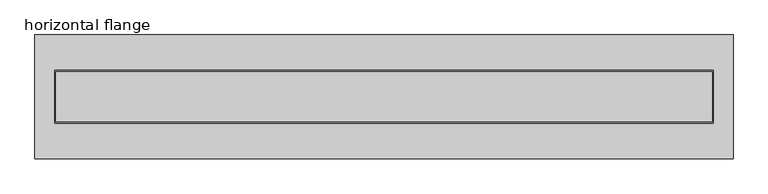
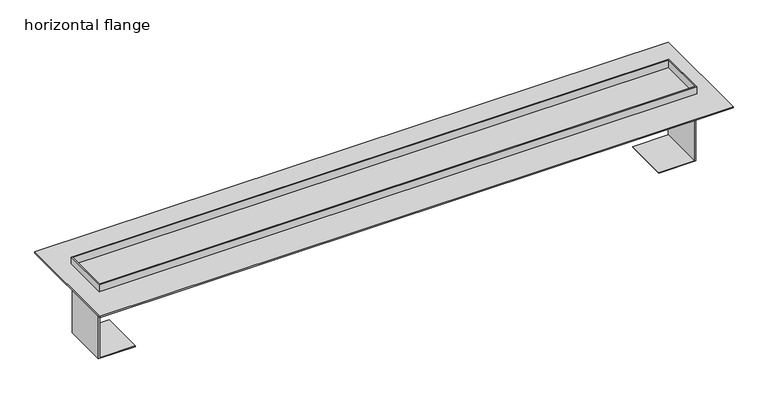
"""IFC4 building model written with IfcOpenShell, lengths in millimetres: sanitary terminal geometry, PF_UN_ShowerDrain M plus_ACO : horizontal flange."""

from ifc_helpers import new_model, si_unit, frame, origin, origin_with_axes, place, context, project, spatial, polyline, outline, extrude, faceted_brep, source, transform, mapped, element, save


def horizontal_flange_18cf1d1b(model_context):
    return source(origin(), model_context, "Body", "SolidModel", [
        extrude(outline(polyline([(530.0, 94.0), (530.0, -94.0), (-530.0, -94.0), (-530.0, 94.0), (530.0, 94.0)])), origin_with_axes(), (0.0, 0.0, 1.0), 2.0),
        extrude(outline(polyline([(-16.5, -498.0), (-16.5, -500.0), (-117.5, -500.0), (-117.5, -438.0), (-116.5, -438.0), (-116.5, -498.0), (-16.5, -498.0)])), frame((0.0, -38.0, 0.0), z_axis=(0.0, 1.0, 0.0), x_axis=(0.0, 0.0, 1.0)), (0.0, 0.0, 1.0), 76.0),
        extrude(outline(polyline([(-16.5, 498.0), (-116.5, 498.0), (-116.5, 438.0), (-117.5, 438.0), (-117.5, 500.0), (-16.5, 500.0), (-16.5, 498.0)])), frame((0.0, -38.0, 0.0), z_axis=(0.0, 1.0, 0.0), x_axis=(0.0, 0.0, 1.0)), (0.0, 0.0, 1.0), 76.0),
        faceted_brep([(500.0, 40.0, 15.0), (-500.0, 40.0, 15.0), (-500.0, -40.0, 15.0), (500.0, -40.0, 15.0), (-498.0, -38.0, 15.0), (-498.0, 38.0, 15.0), (498.0, 38.0, 15.0), (498.0, -38.0, 15.0), (500.0, 40.0, -16.5), (500.0, -40.0, -16.5), (-500.0, -40.0, -16.5), (-500.0, 40.0, -16.5), (-498.0, 38.0, -6.0), (-498.0, -38.0, -6.0), (498.0, -38.0, -6.0), (498.0, 38.0, -6.0)], [[[0, 1, 2, 3], [4, 5, 6, 7]], [[8, 9, 10, 11]], [[1, 0, 8, 11]], [[2, 1, 11, 10]], [[3, 2, 10, 9]], [[0, 3, 9, 8]], [[12, 13, 14, 15]], [[13, 12, 5, 4]], [[14, 13, 4, 7]], [[15, 14, 7, 6]], [[12, 15, 6, 5]]]),
    ])


if __name__ == "__main__":
    model = new_model("IFC4")
    model_context = context("Model", 3, world=origin())
    ifc_project = project(units=[si_unit("LENGTHUNIT", "METRE", prefix="MILLI")], contexts=[model_context])
    site = spatial("IfcSite", under=ifc_project)
    building = spatial("IfcBuilding", under=site)
    placement = place(None, origin())
    horizontal_flange_shape = horizontal_flange_18cf1d1b(model_context)
    element("IfcSanitaryTerminal", 1, ObjectType="PF_UN_ShowerDrain M plus_ACO : horizontal flange", at=placement, inside=building, context=model_context, shape_type="MappedRepresentation", body=[
        mapped(horizontal_flange_shape, transform((0.0, 0.0, 0.0), x_axis=(1.0, 0.0, 0.0), y_axis=(0.0, 1.0, 0.0), z_axis=(0.0, 0.0, 1.0))),
    ])
    save(model, "model.ifc")
